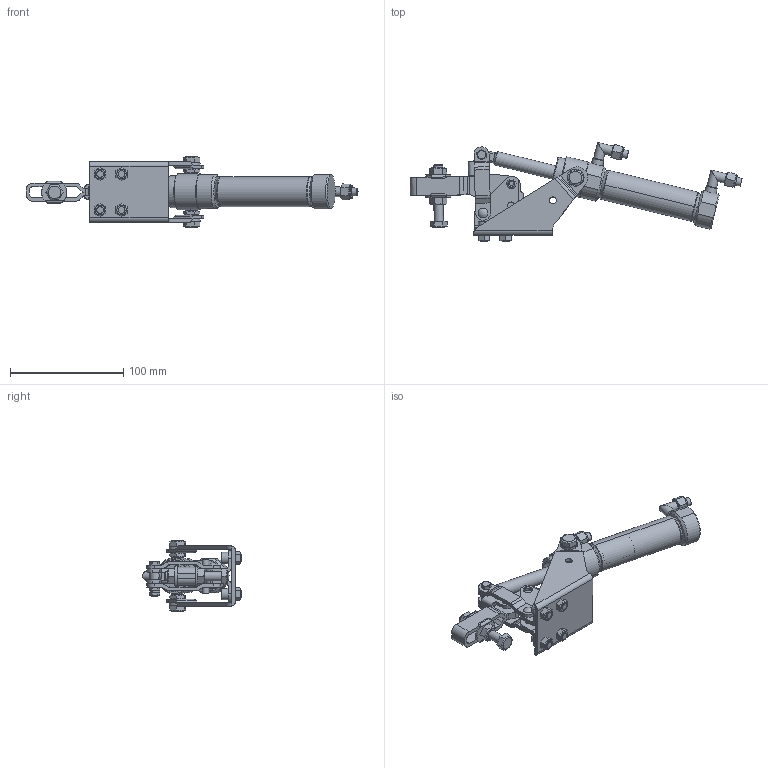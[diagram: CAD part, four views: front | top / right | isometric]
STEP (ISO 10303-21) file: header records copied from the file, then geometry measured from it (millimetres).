
FILE_DESCRIPTION(/* description */ (''),/* implementation_level */ '2;1');
FILE_NAME(/* name */ 'E:\3D作業領域\エアークランプ（スタンダード置替）\AC450V\AC450V.stp',/* time_stamp */ '2024-04-16T09:10:09+09:00',/* author */ ('takahashi'),/* organization */ (''),/* preprocessor_version */ 'ST-DEVELOPER v18.1',/* originating_system */ 'Autodesk Inventor 2020',/* authorisation */ '');
FILE_SCHEMA (('AUTOMOTIVE_DESIGN { 1 0 10303 214 3 1 1 }'));
Length unit declared in the file: millimetre
Products named in the file (33): AC450V; AC450フレーム; AC450フレーム_1; M8コンタルナット; AC450シリンダー支持ボルト; AC450シリンダー支持ボルト_
1; M8SW; HV450ベース（リベットアセンブリ済）; HV450ベース; リベット5x12.55; HV450アーム; AC450レバー; AC450レバー_1; リベット5x19.45; AC450シリンダー連結ボルト; M5SW; M5コンタルナット; HV450リンク（リベットアセンブリ済）; HV450リンク; リベット5x12.81; AC450Sシリンダー(CMK2-00-25-50-T0H-D
-V); CMK2-00-25-50-T0H-D-V_6; Φ25用取付金具; CMK2-00-25-50-T0H-D-V_1; ニップルL型; ニップルL型_1; 袋ナット; スリーブb; M8×50ボルト; M8ナット; HV450ワッシャー; キャップスクリューM6; M6ナット
Assembly tree (43 placements, depth 4):
  AC450V
    AC450フレーム
      AC450フレーム_1
      M8コンタルナット  x2
      AC450シリンダー支持ボルト  x2
        AC450シリンダー支持ボルト_
1
        M8SW
    HV450ベース（リベットアセンブリ済）
      HV450ベース
      リベット5x12.55
    HV450アーム
    AC450レバー
      AC450レバー_1
      リベット5x19.45
      AC450シリンダー連結ボルト
      M5SW
      M5コンタルナット  x2
    HV450リンク（リベットアセンブリ済）
      HV450リンク
      リベット5x12.81
    AC450Sシリンダー(CMK2-00-25-50-T0H-D
-V)
      CMK2-00-25-50-T0H-D-V_6
      Φ25用取付金具
    CMK2-00-25-50-T0H-D-V_1
    ニップルL型  x2
      ニップルL型_1
      袋ナット
      スリーブb
    M8×50ボルト
    M8ナット  x2
    HV450ワッシャー
    キャップスクリューM6  x4
    M6ナット  x4
Bounding box: 292.84 x 87.52 x 62.6 mm (x, y, z)
Volume: 150278.4 mm3; surface area: 99939.1 mm2
Topology: 41 solids, 41 shells, 707 faces, 1704 edges, 1124 vertices
Faces by surface type: plane 385, cylinder 235, cone 76, torus 6, sphere 3, bspline 2
Full cylindrical faces by diameter (mm): 3 x2, 3.4 x1, 4 x2, 4.1 x2, 4.5 x4, 4.99 x3, 5 x17, 5.015 x1, 5.2 x1, 5.9 x2, 6 x13, 6.08 x2, 6.1 x4, 6.5 x2, 7 x6, 7.1 x4, 7.3 x2, 8 x7, 8.01 x2, 8.2 x3, 8.45 x2, 8.5 x6, 8.7 x1, 10 x10, 11 x2, 12 x1, 15 x2, 21.8 x1, 26 x1, 28 x1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
Entity records: 18131 total; most frequent: CARTESIAN_POINT 3565, DIRECTION 2984, ORIENTED_EDGE 2668, EDGE_CURVE 1334, AXIS2_PLACEMENT_3D 1152, VERTEX_POINT 882, LINE 680, VECTOR 680
